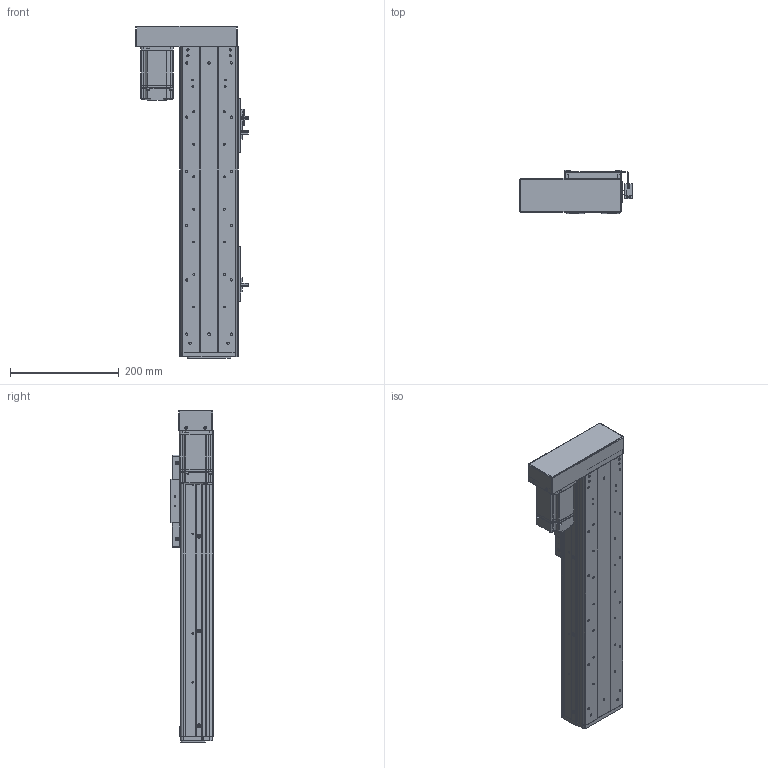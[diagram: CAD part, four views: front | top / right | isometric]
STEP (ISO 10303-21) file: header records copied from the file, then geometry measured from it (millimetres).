
FILE_DESCRIPTION (( 'STEP AP203' ), '1' );
FILE_NAME ('RY100FS-L1620-300-LK(15双轨).SLDASM_300.step', '2021-03-02T07:39:53', ( '盈信电脑' ), ( '东莞市道滘镇水果街19号' ), 'SwSTEP 2.0', 'SolidWorks 2012', '' );
FILE_SCHEMA (( 'CONFIG_CONTROL_DESIGN' ));
Products named in the file (21): RY100FS-L1620-300-LK(15邧寢).SLDASM_300; 蚥薯蝶紫輸; RY100FS-15邧寢蛌殏萇儂欶; 1; 滅袉蝶14-35; RY100FS-15邧寢蛌殏萇儂釱; RY100FS-15邧寢蛌殏萇儂啣; RY100F-詩湍揤踡輸; RY100FS-双轨螺母座(16丝杆）; 覜茼ん672; 672嫖萇羲壽假蚾釱; RY80俋离覜茼え; RY100F-詩湍幗謫粣; RY100F-詩湍揤踡謫; 棠沺沭; RY100F-綴裔啣; RY100F-滅鳥裔啣; RY100FS-双轨铝滑块(上板）; RY100FS-300-LK15絳寢倰第奻裔啣; RY100FS-300-LK15邧寢祥凄詩湍; RY100FS-300-LK15絳寢倰第菁釱
Assembly tree (29 placements, depth 2):
  RY100FS-L1620-300-LK(15邧寢).SLDASM_300
    RY100FS-300-LK15絳寢倰第菁釱
    RY100FS-300-LK15絳寢倰第奻裔啣  x2
    RY100FS-300-LK15邧寢祥凄詩湍
    RY100FS-双轨铝滑块(上板）
    RY100F-滅鳥裔啣
    棠沺沭  x2
    RY100F-詩湍幗謫粣
    RY100F-詩湍揤踡謫  x2
    RY100F-綴裔啣
    672嫖萇羲壽假蚾釱  x2
    RY80俋离覜茼え  x2
    覜茼ん672  x3
    RY100F-詩湍揤踡輸  x2
    RY100FS-双轨螺母座(16丝杆）
    RY100FS-15邧寢蛌殏萇儂釱
    滅袉蝶14-35
    1
    RY100FS-15邧寢蛌殏萇儂啣
    RY100FS-15邧寢蛌殏萇儂欶
    蚥薯蝶紫輸  x2
Bounding box: 207.3 x 78.5 x 612 mm (x, y, z)
Volume: 1829137 mm3; surface area: 751930 mm2
Topology: 29 solids, 29 shells, 2173 faces, 5854 edges, 3774 vertices
Faces by surface type: plane 1018, cylinder 954, cone 168, bspline 33
Entity records: 61188 total; most frequent: CARTESIAN_POINT 12456, DIRECTION 9755, ORIENTED_EDGE 9516, EDGE_CURVE 4758, AXIS2_PLACEMENT_3D 3444, VERTEX_POINT 3122, LINE 2867, VECTOR 2867
